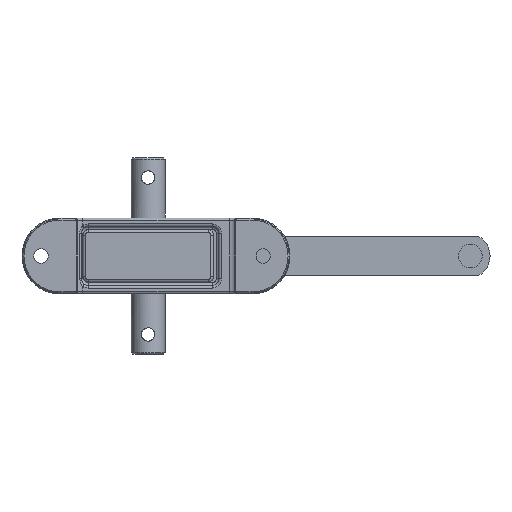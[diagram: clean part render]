
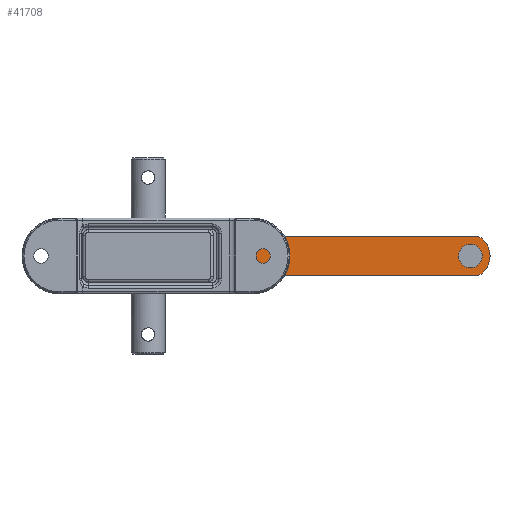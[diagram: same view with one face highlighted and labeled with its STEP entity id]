
A CAD part, left-side view. The second image highlights one B-rep face of the part: STEP entity #41708.
In plain terms, the highlighted planar face has unit normal (-1, 0, 0).
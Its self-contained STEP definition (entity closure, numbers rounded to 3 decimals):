
#741=FACE_BOUND('',#8523,.T.);
#742=FACE_BOUND('',#8524,.T.);
#1130=PLANE('',#44929);
#6050=FACE_OUTER_BOUND('',#8522,.T.);
#8522=EDGE_LOOP('',(#32819,#32820,#32821,#32822));
#8523=EDGE_LOOP('',(#32823));
#8524=EDGE_LOOP('',(#32824,#32825,#32826,#32827,#32828,#32829,#32830,#32831));
#10955=LINE('',#77765,#14368);
#10956=LINE('',#77768,#14369);
#10957=LINE('',#77771,#14370);
#10958=LINE('',#77774,#14371);
#10959=LINE('',#77776,#14372);
#10960=LINE('',#77780,#14373);
#14368=VECTOR('',#50430,10.);
#14369=VECTOR('',#50433,10.);
#14370=VECTOR('',#50434,10.);
#14371=VECTOR('',#50437,10.);
#14372=VECTOR('',#50438,10.);
#14373=VECTOR('',#50441,10.);
#17870=CIRCLE('',#44922,7.);
#17871=CIRCLE('',#44924,1.619);
#17873=CIRCLE('',#44927,17.5);
#17875=CIRCLE('',#44930,17.5);
#17876=CIRCLE('',#44931,1.619);
#17877=CIRCLE('',#44932,1.619);
#17878=CIRCLE('',#44933,1.619);
#19453=VERTEX_POINT('',#77742);
#19454=VERTEX_POINT('',#77746);
#19455=VERTEX_POINT('',#77747);
#19458=VERTEX_POINT('',#77755);
#19459=VERTEX_POINT('',#77756);
#19462=VERTEX_POINT('',#77764);
#19463=VERTEX_POINT('',#77766);
#19464=VERTEX_POINT('',#77769);
#19465=VERTEX_POINT('',#77770);
#19466=VERTEX_POINT('',#77772);
#19467=VERTEX_POINT('',#77775);
#19468=VERTEX_POINT('',#77777);
#19469=VERTEX_POINT('',#77779);
#24323=EDGE_CURVE('',#19453,#19453,#17870,.T.);
#24324=EDGE_CURVE('',#19454,#19455,#17871,.T.);
#24328=EDGE_CURVE('',#19458,#19459,#17873,.T.);
#24332=EDGE_CURVE('',#19458,#19462,#10955,.T.);
#24333=EDGE_CURVE('',#19463,#19462,#17875,.T.);
#24334=EDGE_CURVE('',#19459,#19463,#10956,.T.);
#24335=EDGE_CURVE('',#19464,#19465,#10957,.T.);
#24336=EDGE_CURVE('',#19464,#19466,#17876,.T.);
#24337=EDGE_CURVE('',#19454,#19466,#10958,.T.);
#24338=EDGE_CURVE('',#19455,#19467,#10959,.T.);
#24339=EDGE_CURVE('',#19468,#19467,#17877,.T.);
#24340=EDGE_CURVE('',#19468,#19469,#10960,.T.);
#24341=EDGE_CURVE('',#19465,#19469,#17878,.T.);
#32819=ORIENTED_EDGE('',*,*,#24332,.T.);
#32820=ORIENTED_EDGE('',*,*,#24333,.F.);
#32821=ORIENTED_EDGE('',*,*,#24334,.F.);
#32822=ORIENTED_EDGE('',*,*,#24328,.F.);
#32823=ORIENTED_EDGE('',*,*,#24323,.T.);
#32824=ORIENTED_EDGE('',*,*,#24335,.F.);
#32825=ORIENTED_EDGE('',*,*,#24336,.T.);
#32826=ORIENTED_EDGE('',*,*,#24337,.F.);
#32827=ORIENTED_EDGE('',*,*,#24324,.T.);
#32828=ORIENTED_EDGE('',*,*,#24338,.T.);
#32829=ORIENTED_EDGE('',*,*,#24339,.F.);
#32830=ORIENTED_EDGE('',*,*,#24340,.T.);
#32831=ORIENTED_EDGE('',*,*,#24341,.F.);
#41708=ADVANCED_FACE('',(#6050,#741,#742),#1130,.T.);
#44922=AXIS2_PLACEMENT_3D('',#77744,#50410,#50411);
#44924=AXIS2_PLACEMENT_3D('',#77748,#50414,#50415);
#44927=AXIS2_PLACEMENT_3D('',#77757,#50422,#50423);
#44929=AXIS2_PLACEMENT_3D('',#77763,#50428,#50429);
#44930=AXIS2_PLACEMENT_3D('',#77767,#50431,#50432);
#44931=AXIS2_PLACEMENT_3D('',#77773,#50435,#50436);
#44932=AXIS2_PLACEMENT_3D('',#77778,#50439,#50440);
#44933=AXIS2_PLACEMENT_3D('',#77781,#50442,#50443);
#50410=DIRECTION('center_axis',(1.,0.,0.));
#50411=DIRECTION('ref_axis',(0.,-1.,0.));
#50414=DIRECTION('center_axis',(1.,0.,0.));
#50415=DIRECTION('ref_axis',(0.,0.707,0.707));
#50422=DIRECTION('center_axis',(1.,0.,0.));
#50423=DIRECTION('ref_axis',(0.,0.515,0.857));
#50428=DIRECTION('center_axis',(-1.,0.,0.));
#50429=DIRECTION('ref_axis',(0.,0.,1.));
#50430=DIRECTION('',(0.,-1.,0.));
#50431=DIRECTION('center_axis',(1.,0.,0.));
#50432=DIRECTION('ref_axis',(0.,-0.515,-0.857));
#50433=DIRECTION('',(0.,-1.,0.));
#50434=DIRECTION('',(0.,-0.707,0.707));
#50435=DIRECTION('center_axis',(1.,0.,0.));
#50436=DIRECTION('ref_axis',(0.,0.707,-0.707));
#50437=DIRECTION('',(0.,-0.707,-0.707));
#50438=DIRECTION('',(0.,-0.707,0.707));
#50439=DIRECTION('center_axis',(-1.,0.,0.));
#50440=DIRECTION('ref_axis',(0.,0.707,0.707));
#50441=DIRECTION('',(0.,-0.707,-0.707));
#50442=DIRECTION('center_axis',(-1.,0.,0.));
#50443=DIRECTION('ref_axis',(0.,-0.707,0.707));
#77742=CARTESIAN_POINT('',(140.5,-193.,0.));
#77744=CARTESIAN_POINT('Origin',(140.5,-200.,0.));
#77746=CARTESIAN_POINT('',(140.5,7.376,-1.145));
#77747=CARTESIAN_POINT('',(140.5,7.376,1.145));
#77748=CARTESIAN_POINT('Origin',(140.5,6.231,0.));
#77755=CARTESIAN_POINT('',(140.5,6.514,-15.));
#77756=CARTESIAN_POINT('',(140.5,6.514,15.));
#77757=CARTESIAN_POINT('Origin',(140.5,-2.5,0.));
#77763=CARTESIAN_POINT('Origin',(140.5,-100.,-15.001));
#77764=CARTESIAN_POINT('',(140.5,-206.514,-15.));
#77765=CARTESIAN_POINT('',(140.5,6.514,-15.));
#77766=CARTESIAN_POINT('',(140.5,-206.514,15.));
#77767=CARTESIAN_POINT('Origin',(140.5,-197.5,0.));
#77768=CARTESIAN_POINT('',(140.5,6.514,15.));
#77769=CARTESIAN_POINT('',(140.5,-1.145,-7.376));
#77770=CARTESIAN_POINT('',(140.5,-7.376,-1.145));
#77771=CARTESIAN_POINT('',(140.5,-1.145,-7.376));
#77772=CARTESIAN_POINT('',(140.5,1.145,-7.376));
#77773=CARTESIAN_POINT('Origin',(140.5,0.,-6.231));
#77774=CARTESIAN_POINT('',(140.5,7.376,-1.145));
#77775=CARTESIAN_POINT('',(140.5,1.145,7.376));
#77776=CARTESIAN_POINT('',(140.5,7.376,1.145));
#77777=CARTESIAN_POINT('',(140.5,-1.145,7.376));
#77778=CARTESIAN_POINT('Origin',(140.5,0.,6.231));
#77779=CARTESIAN_POINT('',(140.5,-7.376,1.145));
#77780=CARTESIAN_POINT('',(140.5,-1.145,7.376));
#77781=CARTESIAN_POINT('Origin',(140.5,-6.231,0.));
